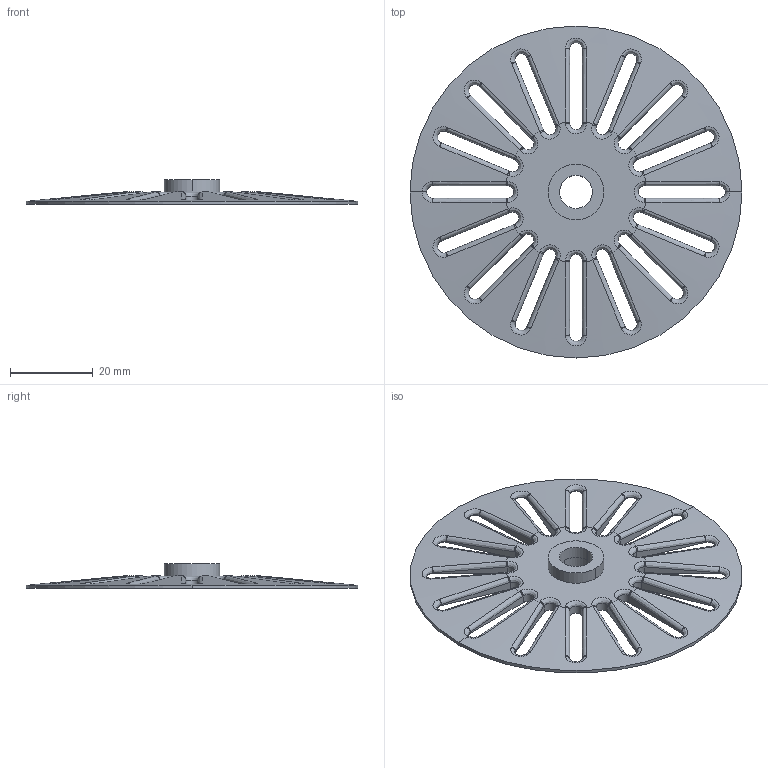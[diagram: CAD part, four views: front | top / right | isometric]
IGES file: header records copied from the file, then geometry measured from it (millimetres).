
Start section:  PTC IGES file: wirespool_top.igs
Global section: file name: wirespool_top.igs; native system: Creo Parametric by Parametric Technology Corporation; preprocessor: 2012130; author: GOC; organization: Unknown; date: 20141105.213348; units: millimetre
Bounding box: 80 x 80 x 6 mm (x, y, z)
Volume: 7669.6 mm3; surface area: 9726.9 mm2
Topology: 1 solids, 1 shells, 205 faces, 558 edges, 340 vertices
Faces by surface type: bspline 165, revolution 40
